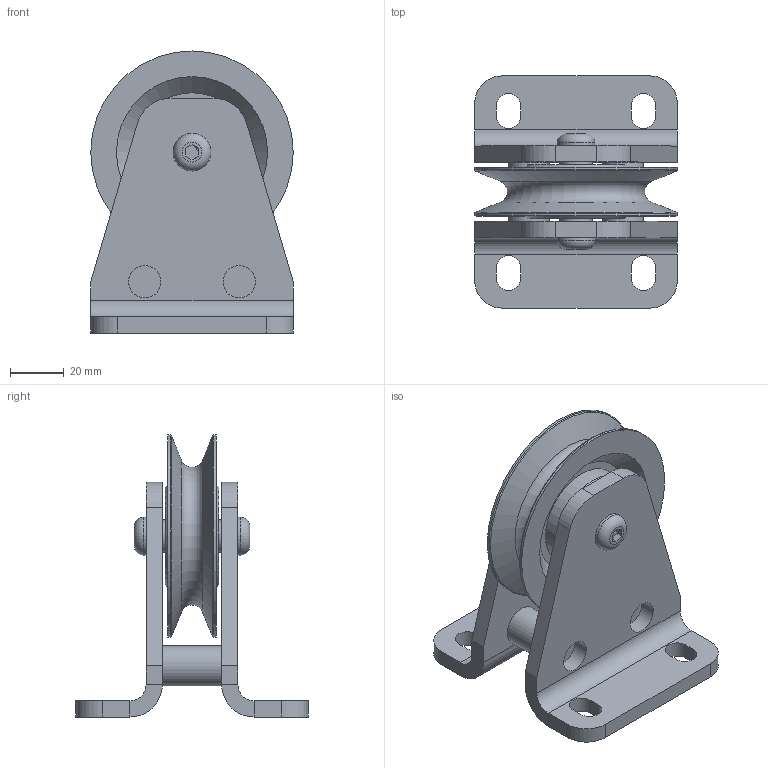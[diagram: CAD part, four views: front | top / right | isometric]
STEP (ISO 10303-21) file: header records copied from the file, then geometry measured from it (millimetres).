
FILE_DESCRIPTION(/* description */ ('Seilrollenbock ø75 Stahl Gleitlager komplett'),/* implementation_level */ '2;1');
FILE_NAME(/* name */ 'Z:\Workspace\03 Seilrollen\1.405 Seilrollenbock Stahl Gleitlager\1.405.02 Seilrollenbock ø75 Stahl Gleitlager\1.405.02 Seilrollenbock ø75 Stahl Gleitlager komplett.stp',/* time_stamp */ '2021-10-05T14:13:09+02:00',/* author */ ('cad-user'),/* organization */ (''),/* preprocessor_version */ 'ST-DEVELOPER v18',/* originating_system */ 'Autodesk Inventor 2020',/* authorisation */ '');
FILE_SCHEMA (('AUTOMOTIVE_DESIGN { 1 0 10303 214 3 1 1 }'));
Length unit declared in the file: millimetre
Products named in the file (8): 1.405.02 Seilrollenbock ø75 Stahl Gleitlager komple
tt; 1.405.02.01 Seilrollenbock Schweißteil; 1.405.02.01 Blech; 1.405.02.01 Distanzachse; 1.405.02.02 Achse; ISO 7380 - M8 x 16; 1.401.02 Seilrolle ø75 Buchse; Lagerbuchse 1220-DU
Assembly tree (10 placements, depth 3):
  1.405.02 Seilrollenbock ø75 Stahl Gleitlager komple
tt
    1.405.02.01 Seilrollenbock Schweißteil
      1.405.02.01 Blech  x2
      1.405.02.01 Distanzachse  x2
    1.405.02.02 Achse
    ISO 7380 - M8 x 16  x2
    1.401.02 Seilrolle ø75 Buchse
    Lagerbuchse 1220-DU
Bounding box: 75 x 86 x 104.5 mm (x, y, z)
Volume: 131032 mm3; surface area: 56722.5 mm2
Topology: 9 solids, 9 shells, 131 faces, 330 edges, 221 vertices
Faces by surface type: plane 68, cylinder 42, cone 14, torus 7
Full cylindrical faces by diameter (mm): 6.647 x1, 8 x2, 9.2 x2, 12 x5, 14 x3, 15 x2, 38 x2, 75 x2
Entity records: 2865 total; most frequent: DIRECTION 500, CARTESIAN_POINT 468, ORIENTED_EDGE 412, EDGE_CURVE 206, AXIS2_PLACEMENT_3D 205, VERTEX_POINT 140, CIRCLE 105, EDGE_LOOP 102
